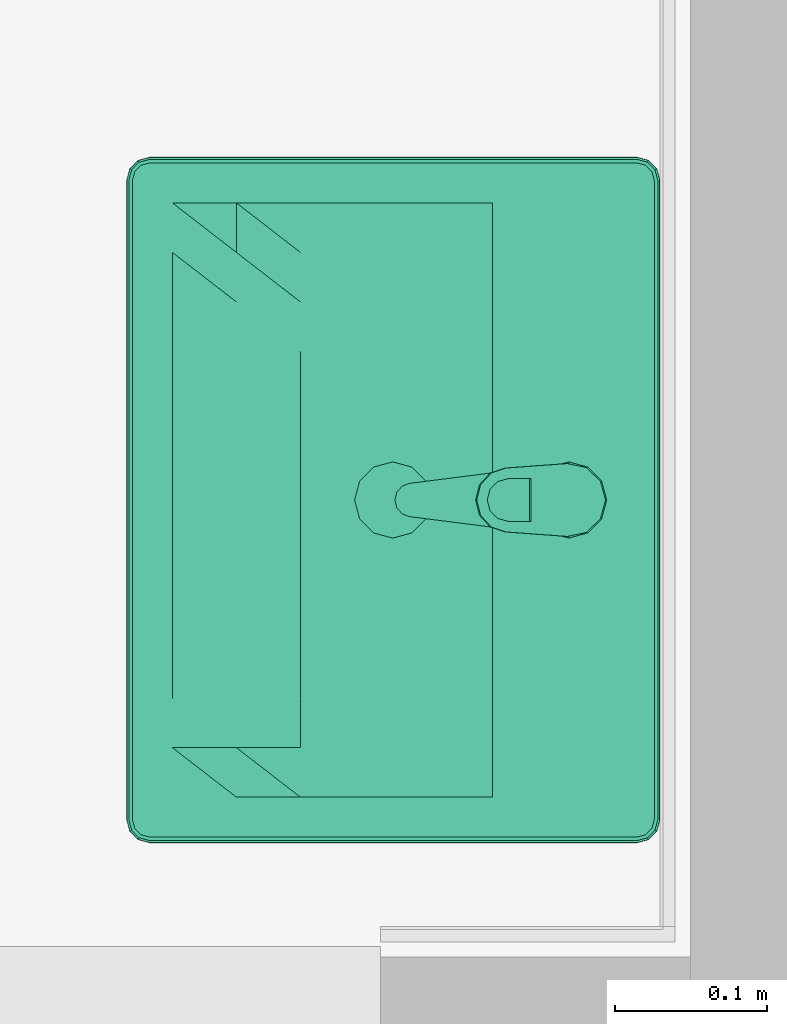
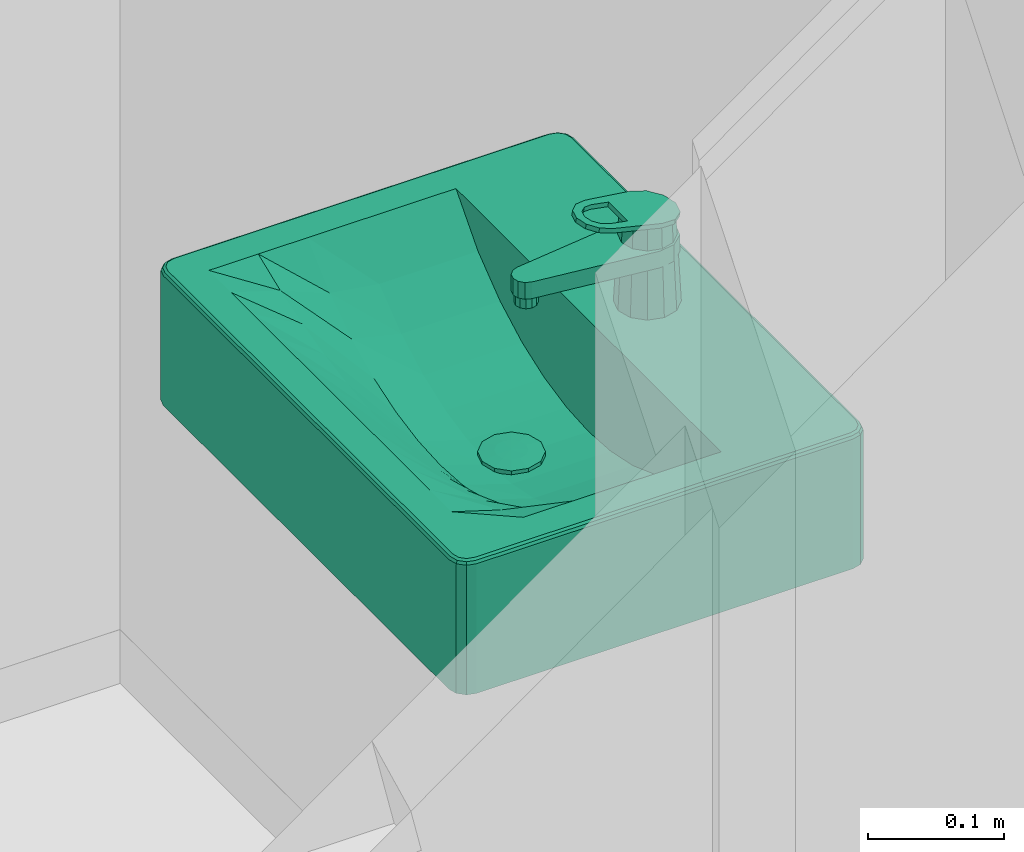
# One storey, part 253 of 347: 1 flow terminal.
"""IFC2X3 building model written with IfcOpenShell, lengths in millimetres."""

from ifc_helpers import new_model, entity, si_unit, converted_unit, derived_unit, money_unit, direction, frame, origin_with_axes, place, context, subcontext, project, spatial, open_shell, faceted_brep, surface_model, source, transform, mapped, type_object, type_shapes, element, save


model = new_model("IFC2X3")

# Units and contexts
model_context = context("Model", 3, precision=0.01, world=origin_with_axes(), true_north=direction((0.0, 1.0)))
plan_context = context("Plan", 3, precision=0.01, world=origin_with_axes(), true_north=direction((0.0, 1.0)))
body_context = subcontext(model_context, "Body", "Model", "MODEL_VIEW")
ifc_project = project(units=[si_unit("LENGTHUNIT", "METRE", prefix="MILLI"), si_unit("AREAUNIT", "SQUARE_METRE"), si_unit("VOLUMEUNIT", "CUBIC_METRE"), converted_unit("PLANEANGLEUNIT", "DEGREE", entity("IfcPlaneAngleMeasure", 0.0174532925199), si_unit("PLANEANGLEUNIT", "RADIAN"), dimensions=[0, 0, 0, 0, 0, 0, 0]), money_unit("EUR"), converted_unit("TIMEUNIT", "Year", entity("IfcTimeMeasure", 31556926.0), si_unit("TIMEUNIT", "SECOND"), dimensions=[0, 0, 1, 0, 0, 0, 0]), si_unit("MASSUNIT", "GRAM", prefix="KILO"), si_unit("THERMODYNAMICTEMPERATUREUNIT", "DEGREE_CELSIUS"), si_unit("LUMINOUSINTENSITYUNIT", "LUMEN"), si_unit("ENERGYUNIT", "JOULE", prefix="MEGA"), derived_unit("THERMALCONDUCTANCEUNIT", [(si_unit("POWERUNIT", "WATT"), 1), (si_unit("LENGTHUNIT", "METRE"), -1), (si_unit("THERMODYNAMICTEMPERATUREUNIT", "KELVIN"), -1)]), derived_unit("SPECIFICHEATCAPACITYUNIT", [(si_unit("ENERGYUNIT", "JOULE"), 1), (si_unit("MASSUNIT", "GRAM", prefix="KILO"), -1), (si_unit("THERMODYNAMICTEMPERATUREUNIT", "KELVIN"), -1)]), derived_unit("MASSDENSITYUNIT", [(si_unit("MASSUNIT", "GRAM", prefix="KILO"), 1), (si_unit("VOLUMEUNIT", "CUBIC_METRE"), -1)])], contexts=[model_context, plan_context])

# Site, building, storey
site_placement = place(None, origin_with_axes())
site = spatial("IfcSite", under=ifc_project, at=site_placement, Name="Site", CompositionType="ELEMENT")
building_placement = place(site_placement, origin_with_axes())
building = spatial("IfcBuilding", under=site, at=building_placement, Name="Naam gebouw", CompositionType="ELEMENT")
storey_placement = place(building_placement, origin_with_axes())
storey = spatial("IfcBuildingStorey", under=building, at=storey_placement, Name="begane grond", CompositionType="ELEMENT", Elevation=0.0)

# Flow terminal
sanitary_terminal_type = type_object("IfcSanitaryTerminalType", Name="Wasbak 25", PredefinedType="SANITARYFOUNTAIN")
shared_shape = source(origin_with_axes(), body_context, "Body", "SurfaceModel", [
    faceted_brep([(210.0, -350.0, 780.0), (-210.0, -350.0, 780.0), (-217.5, -347.990381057, 780.0), (-222.990381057, -342.5, 780.0), (-225.0, -335.0, 780.0), (-225.0, -15.0, 780.0), (-222.990381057, -7.5, 780.0), (-217.5, -2.00961894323, 780.0), (-210.0, 0.0, 780.0), (210.0, 0.0, 780.0), (217.5, -2.00961894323, 780.0), (222.990381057, -7.5, 780.0), (225.0, -15.0, 780.0), (225.0, -335.0, 780.0), (222.990381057, -342.5, 780.0), (217.5, -347.990381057, 780.0), (-195.0, -320.0, 780.0), (195.0, -320.0, 780.0), (195.0, -110.0, 780.0), (-195.0, -110.0, 780.0), (210.000000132, -350.00000039, 895.0), (-209.999999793, -350.00000039, 895.0), (-217.500000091, -347.990381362, 895.0), (-222.990381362, -342.500000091, 895.0), (-225.00000039, -334.999999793, 895.0), (-225.00000039, -15.0000004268, 895.0), (-222.990381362, -7.50000012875, 895.0), (-217.500000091, -2.0096188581, 895.0), (-209.999999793, 1.69277203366e-07, 895.0), (210.000000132, 1.69277203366e-07, 895.0), (217.50000043, -2.0096188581, 895.0), (222.990380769, -7.50000012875, 895.0), (224.999999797, -15.0000004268, 895.0), (224.999999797, -334.999999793, 895.0), (222.990380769, -342.500000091, 895.0), (217.50000043, -347.990381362, 895.0), (-195.0, -320.0, 899.999999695), (195.0, -320.0, 899.999999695), (195.0, -110.0, 899.999999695), (-195.0, -110.0, 899.999999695), (209.977570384, -349.829629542, 896.294095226), (-209.977570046, -349.829629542, 896.294095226), (-217.411809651, -347.837631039, 896.294095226), (-222.837631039, -342.411809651, 896.294095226), (-224.829629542, -334.977570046, 896.294095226), (-224.829629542, -15.0224301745, 896.294095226), (-222.837631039, -7.58819056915, 896.294095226), (-217.411809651, -2.16236918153, 896.294095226), (-209.977570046, -0.170370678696, 896.294095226), (209.977570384, -0.170370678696, 896.294095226), (217.411809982, -2.16236917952, 896.294095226), (222.837630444, -7.58819056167, 896.294095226), (224.829628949, -15.0224301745, 896.294095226), (224.829628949, -334.977570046, 896.294095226), (222.837630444, -342.411809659, 896.294095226), (217.411809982, -347.837631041, 896.294095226), (-209.34173768, -4.99999697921, 899.999999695), (-214.911811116, -6.49249366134, 899.999999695), (-218.507506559, -10.0881891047, 899.999999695), (-220.000003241, -15.6582625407, 899.999999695), (-220.000003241, -334.34173768, 899.999999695), (-218.507506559, -339.911811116, 899.999999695), (-214.911811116, -343.507506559, 899.999999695), (-209.34173768, -345.000003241, 899.999999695), (209.341738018, -345.000003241, 899.999999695), (214.911811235, -343.507506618, 899.999999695), (218.507505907, -339.911811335, 899.999999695), (220.000002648, -334.34173768, 899.999999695), (220.000002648, -15.6582625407, 899.999999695), (218.507505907, -10.0881888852, 899.999999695), (214.911811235, -6.49249360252, 899.999999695), (209.341738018, -4.99999697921, 899.999999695), (209.807199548, -348.535534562, 898.535533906), (-209.807199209, -348.535534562, 898.535533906), (-216.741936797, -346.677377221, 898.535533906), (-221.677377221, -341.741936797, 898.535533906), (-223.535534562, -334.807199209, 898.535533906), (-223.535534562, -15.192801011, 898.535533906), (-221.677377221, -8.25806342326, 898.535533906), (-216.741936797, -3.32262299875, 898.535533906), (-209.807199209, -1.46446565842, 898.535533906), (209.807199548, -1.46446565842, 898.535533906), (216.741937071, -3.32262298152, 898.535533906), (221.677376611, -8.25806335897, 898.535533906), (223.535533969, -15.192801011, 898.535533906), (223.535533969, -334.807199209, 898.535533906), (221.677376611, -341.741936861, 898.535533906), (216.741937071, -346.677377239, 898.535533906), (-215.581682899, -5.33224169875, 899.829629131), (-209.512108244, -3.70590406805, 899.829629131), (-219.667758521, -9.41831732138, 899.829629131), (-221.294096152, -15.4878919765, 899.829629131), (-221.294096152, -334.512108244, 899.829629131), (-219.667758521, -340.581682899, 899.829629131), (-215.581682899, -344.667758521, 899.829629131), (-209.512108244, -346.294096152, 899.829629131), (209.512108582, -346.294096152, 899.829629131), (215.581683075, -344.667758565, 899.829629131), (219.667757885, -340.581683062, 899.829629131), (221.294095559, -334.512108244, 899.829629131), (221.294095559, -15.4878919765, 899.829629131), (219.667757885, -9.41831715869, 899.829629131), (215.581683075, -5.33224165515, 899.829629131), (209.512108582, -3.70590406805, 899.829629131)], [[[0, 1, 2, 3, 4, 5, 6, 7, 8, 9, 10, 11, 12, 13, 14, 15], [16, 17, 18, 19]], [[0, 20, 21, 1]], [[1, 21, 22, 2]], [[2, 22, 23, 3]], [[3, 23, 24, 4]], [[4, 24, 25, 5]], [[5, 25, 26, 6]], [[6, 26, 27, 7]], [[7, 27, 28, 8]], [[8, 28, 29, 9]], [[9, 29, 30, 10]], [[10, 30, 31, 11]], [[11, 31, 32, 12]], [[12, 32, 33, 13]], [[13, 33, 34, 14]], [[14, 34, 35, 15]], [[15, 35, 20, 0]], [[36, 37, 17, 16]], [[37, 38, 18, 17]], [[38, 39, 19, 18]], [[39, 36, 16, 19]], [[20, 40, 41, 21]], [[21, 41, 42, 22]], [[22, 42, 43, 23]], [[23, 43, 44, 24]], [[24, 44, 45, 25]], [[25, 45, 46, 26]], [[26, 46, 47, 27]], [[27, 47, 48, 28]], [[28, 48, 49, 29]], [[29, 49, 50, 30]], [[30, 50, 51, 31]], [[31, 51, 52, 32]], [[32, 52, 53, 33]], [[33, 53, 54, 34]], [[34, 54, 55, 35]], [[35, 55, 40, 20]], [[56, 57, 58, 59, 60, 61, 62, 63, 64, 65, 66, 67, 68, 69, 70, 71], [36, 39, 38, 37]], [[40, 72, 73, 41]], [[41, 73, 74, 42]], [[42, 74, 75, 43]], [[43, 75, 76, 44]], [[44, 76, 77, 45]], [[45, 77, 78, 46]], [[46, 78, 79, 47]], [[47, 79, 80, 48]], [[48, 80, 81, 49]], [[49, 81, 82, 50]], [[50, 82, 83, 51]], [[51, 83, 84, 52]], [[52, 84, 85, 53]], [[53, 85, 86, 54]], [[54, 86, 87, 55]], [[55, 87, 72, 40]], [[88, 57, 56, 89]], [[90, 58, 57, 88]], [[91, 59, 58, 90]], [[92, 60, 59, 91]], [[93, 61, 60, 92]], [[94, 62, 61, 93]], [[95, 63, 62, 94]], [[96, 64, 63, 95]], [[97, 65, 64, 96]], [[98, 66, 65, 97]], [[99, 67, 66, 98]], [[100, 68, 67, 99]], [[101, 69, 68, 100]], [[102, 70, 69, 101]], [[103, 71, 70, 102]], [[89, 56, 71, 103]], [[72, 96, 95, 73]], [[73, 95, 94, 74]], [[74, 94, 93, 75]], [[75, 93, 92, 76]], [[76, 92, 91, 77]], [[77, 91, 90, 78]], [[78, 90, 88, 79]], [[79, 88, 89, 80]], [[80, 89, 103, 81]], [[81, 103, 102, 82]], [[82, 102, 101, 83]], [[83, 101, 100, 84]], [[84, 100, 99, 85]], [[85, 99, 98, 86]], [[86, 98, 97, 87]], [[87, 97, 96, 72]]]),
    faceted_brep([(-195.0, -320.0, 780.0), (-195.0, -110.0, 780.0), (195.0, -110.0, 780.0), (195.0, -320.0, 780.0), (12.5, -197.098635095, 780.0), (21.6506350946, -187.948, 780.0), (25.0, -175.448, 780.0), (21.6506350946, -162.948, 780.0), (12.5, -153.797364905, 780.0), (0.0, -150.448, 780.0), (-12.5, -153.797364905, 780.0), (-21.6506350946, -162.948, 780.0), (-25.0, -175.448, 780.0), (-21.6506350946, -187.948, 780.0), (-12.5, -197.098635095, 780.0), (0.0, -200.448, 780.0), (-195.0, -236.0, 900.0), (-195.0, -194.0, 900.0), (-195.0, -152.0, 900.0), (-195.0, -110.0, 900.0), (-195.0, -320.0, 900.0), (-195.0, -278.0, 900.0), (97.5, -110.0, 820.685337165), (130.0, -110.0, 838.233901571), (162.5, -110.0, 863.337654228), (195.0, -110.0, 900.0), (-162.5, -110.0, 863.337654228), (-130.0, -110.0, 838.233901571), (-97.5, -110.0, 820.685337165), (-65.0, -110.0, 808.964848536), (-32.5, -110.0, 802.209541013), (0.0, -110.0, 800.0), (32.5, -110.0, 802.209541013), (65.0, -110.0, 808.964848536), (195.0, -194.0, 900.0), (195.0, -236.0, 900.0), (195.0, -278.0, 900.0), (195.0, -320.0, 900.0), (195.0, -152.0, 900.0), (-97.5, -320.0, 900.0), (-130.0, -320.0, 900.0), (-162.5, -320.0, 900.0), (162.5, -320.0, 900.0), (130.0, -320.0, 900.0), (97.5, -320.0, 900.0), (65.0, -320.0, 900.0), (32.5, -320.0, 900.0), (0.0, -320.0, 900.0), (-32.5, -320.0, 900.0), (-65.0, -320.0, 900.0), (15.5986350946, -194.0, 801.060486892), (21.6506350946, -187.948, 801.471937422), (12.5, -197.098635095, 801.884907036), (25.0, -175.448, 801.699646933), (21.6506350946, -162.948, 801.471937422), (12.5, -153.797364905, 800.849823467), (5.79214285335, -152.0, 800.393783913), (0.0, -150.448, 800.0), (-5.79214285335, -152.0, 800.393783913), (-12.5, -153.797364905, 800.849823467), (-21.6506350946, -162.948, 801.471937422), (-25.0, -175.448, 801.699646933), (-21.6506350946, -187.948, 801.471937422), (-15.5986350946, -194.0, 801.060486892), (-12.5, -197.098635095, 801.869968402), (-4.13265281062, -199.340659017, 802.03923497), (0.0, -200.448, 802.15392218), (-162.5, -194.0, 863.337654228), (-162.5, -152.0, 863.337654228), (-162.5, -278.0, 886.956973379), (-162.5, -236.0, 869.931060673), (130.0, -152.0, 838.233901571), (97.5, -152.0, 820.685337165), (162.5, -152.0, 863.337654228), (-130.0, -152.0, 838.233901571), (-97.5, -152.0, 820.685337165), (-65.0, -152.0, 808.964848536), (-32.5, -152.0, 802.209541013), (32.5, -152.0, 802.209541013), (65.0, -152.0, 808.964848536), (162.5, -236.0, 869.931060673), (162.5, -278.0, 886.956973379), (162.5, -194.0, 863.337654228), (-97.5, -278.0, 868.630654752), (-130.0, -278.0, 876.559022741), (130.0, -278.0, 876.559022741), (97.5, -278.0, 868.630654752), (65.0, -278.0, 863.048407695), (32.5, -278.0, 859.730275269), (0.0, -278.0, 858.629325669), (-32.5, -278.0, 859.730275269), (-65.0, -278.0, 863.048407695), (32.5, -194.0, 802.209541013), (0.0, -236.0, 814.029890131), (-32.5, -194.0, 802.209541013), (-32.5, -236.0, 816.036947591), (-130.0, -194.0, 838.233901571), (130.0, -194.0, 838.233901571), (97.5, -194.0, 820.685337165), (-97.5, -194.0, 820.685337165), (-65.0, -194.0, 808.964848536), (65.0, -194.0, 808.964848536), (32.5, -236.0, 816.036947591), (-65.0, -236.0, 822.152509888), (-130.0, -236.0, 848.235620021), (97.5, -236.0, 832.683441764), (130.0, -236.0, 848.235620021), (-97.5, -236.0, 832.683441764), (65.0, -236.0, 822.152509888)], [[[0, 1, 2, 3], [4, 5, 6, 7, 8, 9, 10, 11, 12, 13, 14, 15]], [[16, 17, 18, 19, 1, 0, 20, 21]], [[22, 23, 24, 25, 2, 1, 19, 26, 27, 28, 29, 30, 31, 32, 33]], [[34, 35, 36, 37, 3, 2, 25, 38]], [[39, 40, 41, 20, 0, 3, 37, 42, 43, 44, 45, 46, 47, 48, 49]], [[50, 51, 5, 4, 52]], [[51, 53, 6, 5]], [[53, 54, 7, 6]], [[54, 55, 8, 7]], [[55, 56, 57, 9, 8]], [[57, 58, 59, 10, 9]], [[59, 60, 11, 10]], [[60, 61, 12, 11]], [[61, 62, 13, 12]], [[63, 64, 14, 13, 62]], [[65, 66, 15, 14, 64]], [[66, 52, 4, 15]], [[16, 67, 17]], [[67, 68, 18, 17]], [[68, 26, 19, 18]], [[20, 69, 21]], [[21, 70, 16]], [[71, 23, 22, 72]], [[73, 24, 23, 71]], [[38, 25, 24, 73]], [[74, 27, 26, 68]], [[75, 28, 27, 74]], [[76, 29, 28, 75]], [[77, 30, 29, 76]], [[58, 57, 31, 30, 77]], [[57, 56, 78, 32, 31]], [[79, 33, 32, 78]], [[72, 22, 33, 79]], [[80, 35, 34]], [[81, 36, 35]], [[42, 37, 36]], [[34, 38, 73, 82]], [[40, 39, 83]], [[41, 40, 84]], [[20, 41, 69]], [[43, 42, 81]], [[44, 43, 85]], [[45, 44, 86]], [[46, 45, 87]], [[47, 46, 88]], [[48, 47, 89]], [[49, 48, 90]], [[39, 49, 91]], [[55, 54, 53, 51, 50, 92, 78, 56]], [[52, 66, 93, 92, 50]], [[59, 58, 77, 94, 63, 62, 61, 60]], [[64, 63, 94, 95, 65]], [[66, 65, 95, 93]], [[16, 70, 67]], [[96, 74, 68, 67]], [[21, 69, 70]], [[97, 71, 72, 98]], [[82, 73, 71, 97]], [[99, 75, 74, 96]], [[100, 76, 75, 99]], [[94, 77, 76, 100]], [[101, 79, 78, 92]], [[98, 72, 79, 101]], [[81, 35, 80]], [[80, 34, 82]], [[42, 36, 81]], [[39, 91, 83]], [[40, 83, 84]], [[41, 84, 69]], [[43, 81, 85]], [[44, 85, 86]], [[45, 86, 87]], [[46, 87, 88]], [[47, 88, 89]], [[48, 89, 90]], [[49, 90, 91]], [[93, 102, 92]], [[103, 95, 94]], [[90, 93, 95]], [[70, 96, 67]], [[69, 104, 70]], [[105, 97, 98]], [[106, 82, 97]], [[104, 99, 96]], [[107, 100, 99]], [[103, 94, 100]], [[102, 101, 92]], [[108, 98, 101]], [[85, 81, 80]], [[106, 80, 82]], [[83, 91, 103]], [[84, 83, 107]], [[69, 84, 104]], [[86, 85, 106]], [[87, 86, 105]], [[88, 87, 108]], [[89, 88, 102]], [[90, 89, 93]], [[91, 90, 95]], [[89, 102, 93]], [[91, 95, 103]], [[70, 104, 96]], [[105, 106, 97]], [[108, 105, 98]], [[104, 107, 99]], [[107, 103, 100]], [[102, 108, 101]], [[85, 80, 106]], [[83, 103, 107]], [[84, 107, 104]], [[86, 106, 105]], [[87, 105, 108]], [[88, 108, 102]]]),
    faceted_brep([(21.6506350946, -187.948, 800.0), (12.5, -197.098635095, 800.0), (0.0, -200.448, 800.0), (-12.5, -197.098635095, 800.0), (-21.6506350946, -187.948, 800.0), (-25.0, -175.448, 800.0), (-21.6506350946, -162.948, 800.0), (-12.5, -153.797364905, 800.0), (0.0, -150.448, 800.0), (12.5, -153.797364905, 800.0), (21.6506350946, -162.948, 800.0), (25.0, -175.448, 800.0), (21.6506350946, -187.948, 805.0), (12.5, -197.098635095, 805.0), (0.0, -200.448, 805.0), (-12.5, -197.098635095, 805.0), (-21.6506350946, -187.948, 805.0), (-25.0, -175.448, 805.0), (-21.6506350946, -162.948, 805.0), (-12.5, -153.797364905, 805.0), (0.0, -150.448, 805.0), (12.5, -153.797364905, 805.0), (21.6506350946, -162.948, 805.0), (25.0, -175.448, 805.0)], [[[0, 1, 2, 3, 4, 5, 6, 7, 8, 9, 10, 11]], [[1, 0, 12, 13]], [[2, 1, 13, 14]], [[3, 2, 14, 15]], [[4, 3, 15, 16]], [[5, 4, 16, 17]], [[6, 5, 17, 18]], [[7, 6, 18, 19]], [[8, 7, 19, 20]], [[9, 8, 20, 21]], [[10, 9, 21, 22]], [[11, 10, 22, 23]], [[0, 11, 23, 12]], [[12, 23, 22, 21, 20, 19, 18, 17, 16, 15, 14, 13]]]),
    surface_model("IfcShellBasedSurfaceModel", [(0.0, -175.448, 807.0), (0.0, -162.826094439, 806.49757372), (-6.31095278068, -164.51710914, 806.49757372), (6.31095278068, -164.51710914, 806.49757372), (0.0, -150.448, 805.0), (-12.5, -153.797364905, 805.0), (-10.9308908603, -169.137047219, 806.49757372), (10.9308908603, -169.137047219, 806.49757372), (12.5, -153.797364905, 805.0), (-21.6506350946, -162.948, 805.0), (-12.6219055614, -175.448, 806.49757372), (12.6219055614, -175.448, 806.49757372), (21.6506350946, -162.948, 805.0), (-25.0, -175.448, 805.0), (-10.9308908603, -181.758952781, 806.49757372), (10.9308908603, -181.758952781, 806.49757372), (25.0, -175.448, 805.0), (-21.6506350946, -187.948, 805.0), (-6.31095278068, -186.37889086, 806.49757372), (6.31095278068, -186.37889086, 806.49757372), (21.6506350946, -187.948, 805.0), (-12.5, -197.098635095, 805.0), (0.0, -188.069905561, 806.49757372), (12.5, -197.098635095, 805.0), (0.0, -200.448, 805.0)], [open_shell([[[0, 1, 2]], [[0, 3, 1]], [[2, 1, 4, 5]], [[0, 2, 6]], [[0, 7, 3]], [[1, 3, 8, 4]], [[6, 2, 5, 9]], [[0, 6, 10]], [[0, 11, 7]], [[3, 7, 12, 8]], [[10, 6, 9, 13]], [[0, 10, 14]], [[0, 15, 11]], [[7, 11, 16, 12]], [[14, 10, 13, 17]], [[0, 14, 18]], [[0, 19, 15]], [[11, 15, 20, 16]], [[18, 14, 17, 21]], [[0, 18, 22]], [[0, 22, 19]], [[15, 19, 23, 20]], [[22, 18, 21, 24]], [[19, 22, 24, 23]]])]),
    faceted_brep([(12.5, -38.3493649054, 900.0), (0.0, -35.0, 900.0), (0.0, -38.7980769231, 975.961538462), (10.5873227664, -41.6622190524, 976.507089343), (21.6506350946, -47.5, 900.0), (25.0, -60.0, 900.0), (21.6506350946, -72.5, 900.0), (12.5, -81.6506350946, 900.0), (0.0, -85.0, 900.0), (-12.5, -81.6506350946, 900.0), (-21.6506350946, -72.5, 900.0), (-25.0, -60.0, 900.0), (-21.6506350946, -47.5, 900.0), (-12.5, -38.3493649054, 900.0), (-10.5873227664, -41.6622190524, 976.507089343), (-18.2735503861, -49.4497607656, 977.990430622), (-21.0, -60.0, 980.0), (-18.1003413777, -70.4502369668, 981.990521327), (-10.4141059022, -78.037760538, 983.435763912), (0.0, -80.8018867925, 983.962264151), (10.4141059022, -78.037760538, 983.435763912), (18.1003413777, -70.4502369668, 981.990521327), (21.0, -60.0, 980.0), (18.2735503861, -49.4497607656, 977.990430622)], [[[0, 1, 2, 3]], [[0, 4, 5, 6, 7, 8, 9, 10, 11, 12, 13, 1]], [[1, 13, 14, 2]], [[3, 2, 14, 15, 16, 17, 18, 19, 20, 21, 22, 23]], [[4, 0, 3, 23]], [[5, 4, 23, 22]], [[6, 5, 22, 21]], [[7, 6, 21, 20]], [[8, 7, 20, 19]], [[9, 8, 19, 18]], [[10, 9, 18, 17]], [[11, 10, 17, 16]], [[12, 11, 16, 15]], [[13, 12, 15, 14]]]),
    faceted_brep([(9.0, -163.0, 935.0), (7.79422863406, -158.5, 935.0), (7.79422863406, -158.5, 945.0), (9.0, -163.0, 945.0), (7.79422863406, -167.5, 935.0), (4.5, -170.794228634, 935.0), (0.0, -172.0, 935.0), (-4.5, -170.794228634, 935.0), (-7.79422863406, -167.5, 935.0), (-9.0, -163.0, 935.0), (-7.79422863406, -158.5, 935.0), (-4.5, -155.205771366, 935.0), (0.0, -154.0, 935.0), (4.5, -155.205771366, 935.0), (4.5, -155.205771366, 945.0), (0.0, -154.0, 945.0), (-4.5, -155.205771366, 945.0), (-7.79422863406, -158.5, 945.0), (-9.0, -163.0, 945.0), (-7.79422863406, -167.5, 945.0), (-4.5, -170.794228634, 945.0), (0.0, -172.0, 945.0), (4.5, -170.794228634, 945.0), (7.79422863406, -167.5, 945.0)], [[[0, 1, 2, 3]], [[0, 4, 5, 6, 7, 8, 9, 10, 11, 12, 13, 1]], [[1, 13, 14, 2]], [[3, 2, 14, 15, 16, 17, 18, 19, 20, 21, 22, 23]], [[4, 0, 3, 23]], [[5, 4, 23, 22]], [[6, 5, 22, 21]], [[7, 6, 21, 20]], [[8, 7, 20, 19]], [[9, 8, 19, 18]], [[10, 9, 18, 17]], [[11, 10, 17, 16]], [[12, 11, 16, 15]], [[13, 12, 15, 14]]]),
    faceted_brep([(-12.8717176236, -39.7436961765, 960.0), (-21.727805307, -49.8067946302, 960.0), (-23.8054, -63.0499, 960.0), (-10.911990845, -164.388371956, 960.0), (-9.02887546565, -169.283194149, 960.0), (-5.09332449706, -172.749726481, 960.0), (3.62679860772e-05, -173.99996004, 960.0), (5.09338878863, -172.749692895, 960.0), (9.02891689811, -169.283134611, 960.0), (10.912, -164.3883, 960.0), (23.8053997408, -63.0499020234, 960.0), (21.7278061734, -49.806796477, 960.0), (12.8717193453, -39.7436972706, 960.0), (1.01998896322e-06, -36.000021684, 960.0), (11.0, -40.9474411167, 960.0), (19.0525588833, -49.0, 960.0), (22.0, -60.0, 960.0), (19.0525588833, -71.0, 960.0), (11.0, -79.0525588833, 960.0), (0.0, -82.0, 960.0), (-11.0, -79.0525588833, 960.0), (-19.0525588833, -71.0, 960.0), (-22.0, -60.0, 960.0), (-19.0525588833, -49.0, 960.0), (-11.0, -40.9474411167, 960.0), (0.0, -38.0, 960.0), (-21.727805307, -49.8067946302, 945.0), (-12.8717176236, -39.7436961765, 945.0), (-23.8054, -63.0499, 945.0), (-10.911990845, -164.388371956, 945.0), (-9.02887546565, -169.283194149, 945.0), (-5.09332449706, -172.749726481, 945.0), (3.62679860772e-05, -173.99996004, 945.0), (5.09338878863, -172.749692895, 945.0), (9.02891689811, -169.283134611, 945.0), (10.912, -164.3883, 945.0), (23.8053997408, -63.0499020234, 945.0), (21.7278061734, -49.806796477, 945.0), (12.8717193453, -39.7436972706, 945.0), (1.01998896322e-06, -36.000021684, 945.0), (11.375, -40.2979220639, 945.0), (19.7020779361, -48.625, 945.0), (22.75, -60.0, 945.0), (19.7020779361, -71.375, 945.0), (11.375, -79.7020779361, 945.0), (0.0, -82.75, 945.0), (-11.375, -79.7020779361, 945.0), (-19.7020779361, -71.375, 945.0), (-22.75, -60.0, 945.0), (-19.7020779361, -48.625, 945.0), (-11.375, -40.2979220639, 945.0), (0.0, -37.25, 945.0)], [[[0, 1, 2, 3, 4, 5, 6, 7, 8, 9, 10, 11, 12, 13], [14, 15, 16, 17, 18, 19, 20, 21, 22, 23, 24, 25]], [[26, 1, 0, 27]], [[28, 2, 1, 26]], [[29, 3, 2, 28]], [[30, 4, 3, 29]], [[31, 5, 4, 30]], [[32, 6, 5, 31]], [[33, 7, 6, 32]], [[34, 8, 7, 33]], [[35, 9, 8, 34]], [[36, 10, 9, 35]], [[37, 11, 10, 36]], [[38, 12, 11, 37]], [[39, 13, 12, 38]], [[27, 0, 13, 39]], [[40, 41, 15, 14]], [[41, 42, 16, 15]], [[42, 43, 17, 16]], [[43, 44, 18, 17]], [[44, 45, 19, 18]], [[20, 19, 45, 46]], [[21, 20, 46, 47]], [[22, 21, 47, 48]], [[23, 22, 48, 49]], [[24, 23, 49, 50]], [[50, 51, 25, 24]], [[51, 40, 14, 25]], [[32, 31, 30, 29, 28, 26, 27, 39, 38, 37, 36, 35, 34, 33], [44, 43, 42, 41, 40, 51, 50, 49, 48, 47, 46, 45]]]),
    faceted_brep([(23.893, -61.6925693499, 980.322394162), (21.2964214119, -49.225281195, 977.947672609), (21.2964214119, -48.4768327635, 981.877026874), (23.893, -60.9441209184, 984.251748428), (20.9459364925, -101.836702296, 987.968895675), (17.6631391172, -111.514366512, 989.812260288), (10.0614352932, -118.463746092, 991.135951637), (-0.000442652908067, -120.98561192, 991.616307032), (-10.0622123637, -118.463329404, 991.135872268), (-17.6636179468, -111.513635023, 989.812120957), (-20.946, -101.835834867, 987.968730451), (-23.893020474, -61.6922904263, 980.322341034), (-21.2962910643, -49.2250325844, 977.947625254), (-12.4716815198, -39.9088025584, 976.173105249), (0.000142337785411, -36.4680354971, 975.517721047), (12.4719245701, -39.9089481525, 976.173132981), (14.0, -85.540802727, 984.864914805), (-14.0, -85.540802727, 984.864914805), (-14.0, -100.356432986, 987.686939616), (-12.124355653, -107.232802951, 988.996724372), (-7.0, -112.266655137, 989.955553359), (0.0, -114.109172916, 990.306509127), (7.0, -112.266655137, 989.955553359), (12.124355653, -107.232802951, 988.996724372), (14.0, -100.356432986, 987.686939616), (12.4719245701, -39.1604997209, 980.102487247), (0.000142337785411, -35.7195870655, 979.447075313), (-12.4716815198, -39.1603541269, 980.102459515), (-21.2962910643, -48.4765841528, 981.87697952), (-23.893020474, -60.9438419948, 984.251695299), (-20.946, -101.087386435, 991.898084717), (-17.6636179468, -110.765186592, 993.741475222), (-10.0622123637, -117.714880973, 995.065226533), (-0.000442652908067, -120.237163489, 995.545661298), (10.0614352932, -117.71529766, 995.065305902), (17.6631391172, -110.76591808, 993.741614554), (20.9459364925, -101.088253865, 991.898249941), (14.0, -84.7923542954, 988.794269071), (14.0, -99.6079845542, 991.616293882), (12.124355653, -106.484354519, 992.926078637), (7.0, -111.518206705, 993.884907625), (0.0, -113.360724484, 994.235863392), (-7.0, -111.518206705, 993.884907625), (-12.124355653, -106.484354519, 992.926078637), (-14.0, -99.6079845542, 991.616293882), (-14.0, -84.7923542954, 988.794269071)], [[[0, 1, 2, 3]], [[0, 4, 5, 6, 7, 8, 9, 10, 11, 12, 13, 14, 15, 1], [16, 17, 18, 19, 20, 21, 22, 23, 24]], [[1, 15, 25, 2]], [[3, 2, 25, 26, 27, 28, 29, 30, 31, 32, 33, 34, 35, 36], [37, 38, 39, 40, 41, 42, 43, 44, 45]], [[4, 0, 3, 36]], [[5, 4, 36, 35]], [[6, 5, 35, 34]], [[7, 6, 34, 33]], [[8, 7, 33, 32]], [[9, 8, 32, 31]], [[10, 9, 31, 30]], [[11, 10, 30, 29]], [[12, 11, 29, 28]], [[13, 12, 28, 27]], [[14, 13, 27, 26]], [[15, 14, 26, 25]], [[17, 16, 37, 45]], [[18, 17, 45, 44]], [[19, 18, 44, 43]], [[20, 19, 43, 42]], [[21, 20, 42, 41]], [[22, 21, 41, 40]], [[23, 22, 40, 39]], [[24, 23, 39, 38]], [[16, 24, 38, 37]]]),
    surface_model("IfcShellBasedSurfaceModel", [(0.0, -196.448, 780.0), (-5.43519994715, -195.732442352, 780.0), (-5.43519994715, -195.732442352, 760.0), (0.0, -196.448, 760.0), (-10.5, -193.634533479, 780.0), (-10.5, -193.634533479, 760.0), (5.43519994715, -195.732442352, 780.0), (5.43519994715, -195.732442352, 760.0), (-14.8492424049, -190.297242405, 780.0), (-14.8492424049, -190.297242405, 760.0), (10.5, -193.634533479, 780.0), (10.5, -193.634533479, 760.0), (-18.1865334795, -185.948, 780.0), (-18.1865334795, -185.948, 760.0), (14.8492424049, -190.297242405, 780.0), (14.8492424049, -190.297242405, 760.0), (-20.2844423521, -180.883199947, 780.0), (-20.2844423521, -180.883199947, 760.0), (18.1865334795, -185.948, 780.0), (18.1865334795, -185.948, 760.0), (-21.0, -175.448, 780.0), (-21.0, -175.448, 760.0), (20.2844423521, -180.883199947, 780.0), (20.2844423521, -180.883199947, 760.0), (-20.2844423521, -170.012800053, 780.0), (-20.2844423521, -170.012800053, 760.0), (21.0, -175.448, 780.0), (21.0, -175.448, 760.0), (-18.1865334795, -164.948, 780.0), (-18.1865334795, -164.948, 760.0), (20.2844423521, -170.012800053, 780.0), (20.2844423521, -170.012800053, 760.0), (-14.8492424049, -160.598757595, 780.0), (-14.8492424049, -160.598757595, 760.0), (18.1865334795, -164.948, 780.0), (18.1865334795, -164.948, 760.0), (-10.5, -157.261466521, 780.0), (-10.5, -157.261466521, 760.0), (14.8492424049, -160.598757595, 780.0), (14.8492424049, -160.598757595, 760.0), (-5.43519994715, -155.163557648, 780.0), (-5.43519994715, -155.163557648, 760.0), (10.5, -157.261466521, 780.0), (10.5, -157.261466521, 760.0), (0.0, -154.448, 780.0), (0.0, -154.448, 760.0), (5.43519994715, -155.163557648, 780.0), (5.43519994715, -155.163557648, 760.0)], [open_shell([[[0, 1, 2, 3]], [[1, 4, 5, 2]], [[6, 0, 3, 7]], [[4, 8, 9, 5]], [[10, 6, 7, 11]], [[8, 12, 13, 9]], [[14, 10, 11, 15]], [[12, 16, 17, 13]], [[18, 14, 15, 19]], [[16, 20, 21, 17]], [[22, 18, 19, 23]], [[20, 24, 25, 21]], [[26, 22, 23, 27]], [[24, 28, 29, 25]], [[30, 26, 27, 31]], [[28, 32, 33, 29]], [[34, 30, 31, 35]], [[32, 36, 37, 33]], [[38, 34, 35, 39]], [[36, 40, 41, 37]], [[42, 38, 39, 43]], [[40, 44, 45, 41]], [[46, 42, 43, 47]], [[44, 46, 47, 45]]])]),
])
type_shapes(sanitary_terminal_type, [shared_shape])
flow_terminal_placement = place(storey_placement, frame((38345.0, 30499.9999277, 0.0), z_axis=(0.0, 0.0, 1.0), x_axis=(0.0, -1.0, 0.0)))
element("IfcFlowTerminal", 1, at=flow_terminal_placement, inside=storey, type_object=sanitary_terminal_type, Name="52_Sanitair wastafel", context=body_context, shape_type="MappedRepresentation", body=[
    mapped(shared_shape, transform((0.0, 0.0, 0.0))),
])

save(model, "model.ifc")
